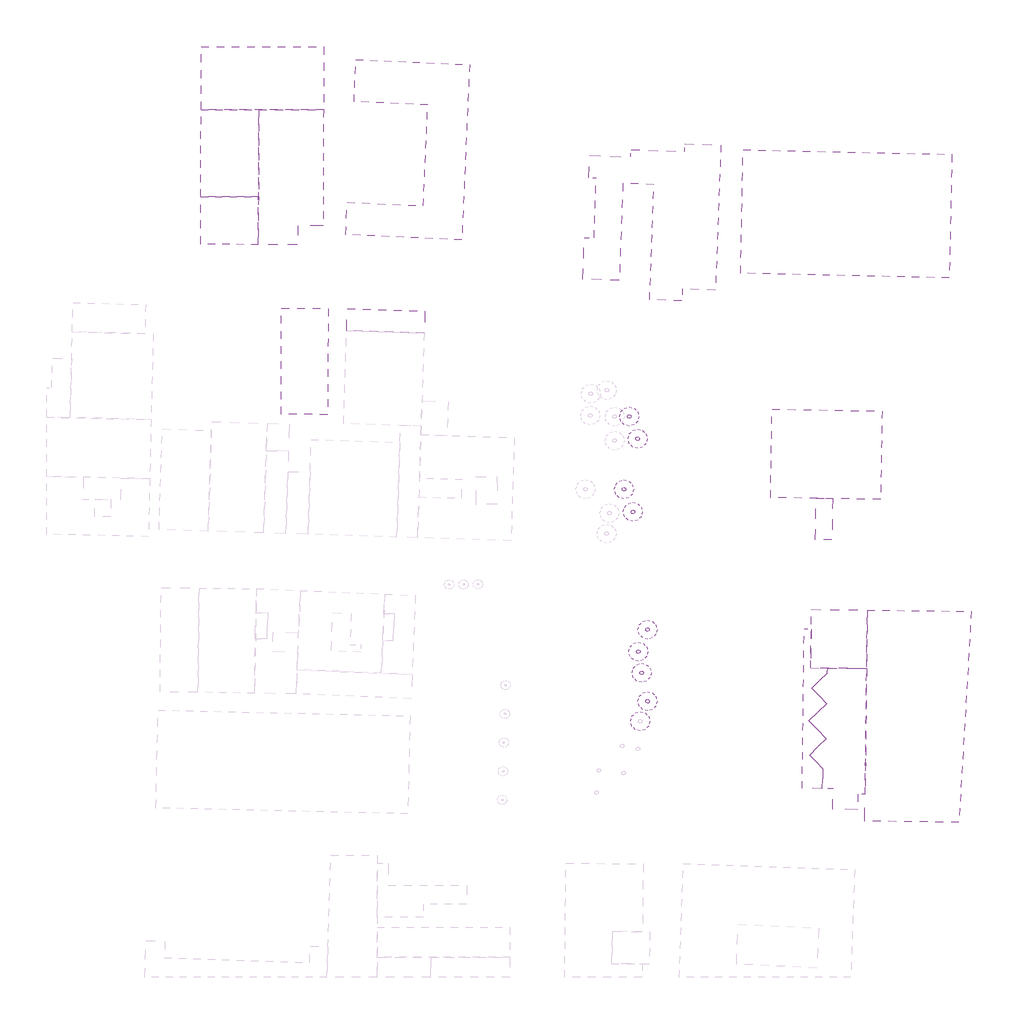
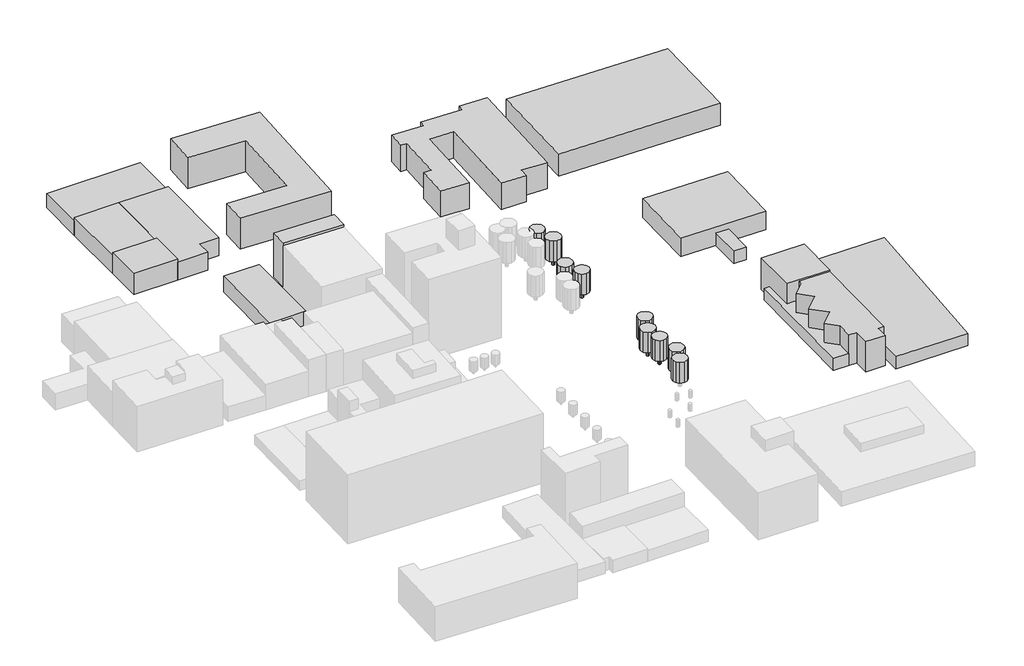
# One storey, part 4 of 4: 32 proxies.
"""IFC4 building model written with IfcOpenShell, lengths in millimetres."""

from ifc_helpers import new_model, si_unit, frame, origin, place, context, project, spatial, polyline, outline, extrude, triangles, element, save

model = new_model("IFC4")

# Units and contexts
model_context = context("Model", 3, world=origin())
ifc_project = project(units=[si_unit("LENGTHUNIT", "METRE", prefix="MILLI")], contexts=[model_context])

# Site, building, storey
site = spatial("IfcSite", under=ifc_project)
building = spatial("IfcBuilding", under=site)
storey = spatial("IfcBuildingStorey", under=building, Name="Terrain Minimum Level", Elevation=-10557.5420791)

# Proxies
placement = place(None, origin())
element("IfcBuildingElementProxy", 1, Name="Generic Models", at=placement, inside=storey, context=model_context, shape_type="Tessellation", body=[
    triangles([(133433.3251465, 108337.6662598, -988.9164545), (133433.3251465, 108947.2662598, -988.9164545), (133210.1945801, 109170.3968262, -988.9164545), (132905.3945801, 109252.0662598, -988.9164545), (132600.5945801, 109170.3968262, -988.9164545), (132600.5945801, 108114.5356934, -988.9164545), (133210.1945801, 108114.5356934, -988.9164545), (132905.3945801, 108032.8662598, -988.9164545), (133210.1945801, 108114.5356934, -4036.9166725), (132905.3945801, 108032.8662598, -4036.9166725), (132377.4640137, 108337.6662598, -4036.9166725), (132905.3945801, 109252.0662598, -4036.9166725), (133210.1945801, 109170.3968262, -4036.9166725), (133433.3251465, 108947.2662598, -4036.9166725), (133514.9945801, 108642.4662598, -4036.9166725), (133433.3251465, 108337.6662598, -4036.9166725), (133514.9945801, 108642.4662598, -988.9164545), (132600.5945801, 109170.3968262, -4036.9166725), (132377.4640137, 108947.2662598, -4036.9166725), (132377.4640137, 108947.2662598, -988.9164545), (132295.7945801, 108642.4662598, -4036.9166725), (132377.4640137, 108337.6662598, -988.9164545), (132295.7945801, 108642.4662598, -988.9164545), (132600.5945801, 108114.5356934, -4036.9166725)], [[16, 17, 1], [16, 15, 17], [9, 1, 7], [9, 16, 1], [10, 7, 8], [10, 9, 7], [24, 8, 6], [24, 10, 8], [11, 6, 22], [11, 24, 6], [21, 22, 23], [21, 11, 22], [19, 23, 20], [19, 21, 23], [18, 20, 5], [18, 19, 20], [12, 5, 4], [12, 18, 5], [13, 4, 3], [13, 12, 4], [14, 3, 2], [14, 13, 3], [15, 2, 17], [15, 14, 2], [14, 15, 16], [12, 13, 14], [19, 18, 12], [11, 21, 19], [10, 24, 11], [16, 9, 10], [12, 14, 16], [11, 19, 12], [16, 10, 11], [11, 12, 16], [1, 4, 22], [22, 8, 1], [4, 20, 22], [1, 2, 4], [8, 7, 1], [22, 6, 8], [20, 23, 22], [4, 5, 20], [2, 3, 4], [1, 17, 2]]),
])
element("IfcBuildingElementProxy", 2, Name="Generic Models", at=placement, inside=storey, context=model_context, shape_type="Tessellation", body=[
    triangles([(135545.0474121, 107118.4662598, 8155.0836182), (135545.0474121, 110166.4662598, 8155.0836182), (134429.3945801, 111282.10979, 8155.0836182), (132905.3945801, 111690.4662598, 8155.0836182), (131381.3945801, 111282.10979, 8155.0836182), (131381.3945801, 106002.8227295, 8155.0836182), (134429.3945801, 106002.8227295, 8155.0836182), (132905.3945801, 105594.4662598, 8155.0836182), (134429.3945801, 106002.8227295, -988.9164545), (132905.3945801, 105594.4662598, -988.9164545), (130265.7510498, 107118.4662598, -988.9164545), (132905.3945801, 111690.4662598, -988.9164545), (134429.3945801, 111282.10979, -988.9164545), (135545.0474121, 110166.4662598, -988.9164545), (135953.3945801, 108642.4662598, -988.9164545), (135545.0474121, 107118.4662598, -988.9164545), (135953.3945801, 108642.4662598, 8155.0836182), (131381.3945801, 111282.10979, -988.9164545), (130265.7510498, 110166.4662598, -988.9164545), (130265.7510498, 110166.4662598, 8155.0836182), (129857.3945801, 108642.4662598, -988.9164545), (130265.7510498, 107118.4662598, 8155.0836182), (129857.3945801, 108642.4662598, 8155.0836182), (131381.3945801, 106002.8227295, -988.9164545)], [[16, 17, 1], [16, 15, 17], [9, 1, 7], [9, 16, 1], [10, 7, 8], [10, 9, 7], [24, 8, 6], [24, 10, 8], [11, 6, 22], [11, 24, 6], [21, 22, 23], [21, 11, 22], [19, 23, 20], [19, 21, 23], [18, 20, 5], [18, 19, 20], [12, 5, 4], [12, 18, 5], [13, 4, 3], [13, 12, 4], [14, 3, 2], [14, 13, 3], [15, 2, 17], [15, 14, 2], [14, 15, 16], [12, 13, 14], [19, 18, 12], [11, 21, 19], [10, 24, 11], [16, 9, 10], [12, 14, 16], [11, 19, 12], [16, 10, 11], [11, 12, 16], [1, 4, 22], [22, 8, 1], [4, 20, 22], [1, 2, 4], [8, 7, 1], [22, 6, 8], [20, 23, 22], [4, 5, 20], [2, 3, 4], [1, 17, 2]]),
])
element("IfcBuildingElementProxy", 3, Name="Generic Models", at=placement, inside=storey, context=model_context, shape_type="Tessellation", body=[
    triangles([(130748.2797363, 115425.4661865, -1035.098374), (130748.2797363, 116035.0661865, -1035.098374), (130525.1491699, 116258.1967529, -1035.098374), (130220.3491699, 116339.8661865, -1035.098374), (129915.5491699, 116258.1967529, -1035.098374), (129915.5491699, 115202.3449219, -1035.098374), (130525.1491699, 115202.3449219, -1035.098374), (130220.3491699, 115120.6661865, -1035.098374), (130525.1491699, 115202.3449219, -4083.0984467), (130220.3491699, 115120.6661865, -4083.0984467), (129692.4186035, 115425.4661865, -4083.0984467), (130220.3491699, 116339.8661865, -4083.0984467), (130525.1491699, 116258.1967529, -4083.0984467), (130748.2797363, 116035.0661865, -4083.0984467), (130829.9491699, 115730.2661865, -4083.0984467), (130748.2797363, 115425.4661865, -4083.0984467), (130829.9491699, 115730.2661865, -1035.098374), (129915.5491699, 116258.1967529, -4083.0984467), (129692.4186035, 116035.0661865, -4083.0984467), (129692.4186035, 116035.0661865, -1035.098374), (129610.7491699, 115730.2661865, -4083.0984467), (129692.4186035, 115425.4661865, -1035.098374), (129610.7491699, 115730.2661865, -1035.098374), (129915.5491699, 115202.3449219, -4083.0984467)], [[16, 17, 1], [16, 15, 17], [9, 1, 7], [9, 16, 1], [10, 7, 8], [10, 9, 7], [24, 8, 6], [24, 10, 8], [11, 6, 22], [11, 24, 6], [21, 22, 23], [21, 11, 22], [19, 23, 20], [19, 21, 23], [18, 20, 5], [18, 19, 20], [12, 5, 4], [12, 18, 5], [13, 4, 3], [13, 12, 4], [14, 3, 2], [14, 13, 3], [15, 2, 17], [15, 14, 2], [14, 15, 16], [12, 13, 14], [19, 18, 12], [11, 21, 19], [10, 24, 11], [16, 9, 10], [12, 14, 16], [11, 19, 12], [16, 10, 11], [11, 12, 16], [1, 4, 22], [22, 8, 1], [4, 20, 22], [1, 2, 4], [8, 7, 1], [22, 6, 8], [20, 23, 22], [4, 5, 20], [2, 3, 4], [1, 17, 2]]),
])
element("IfcBuildingElementProxy", 4, Name="Generic Models", at=placement, inside=storey, context=model_context, shape_type="Tessellation", body=[
    triangles([(132859.9927002, 114206.2661865, 8108.9021347), (132859.9927002, 117254.2661865, 8108.9021347), (131744.3491699, 118369.9190186, 8108.9021347), (130220.3491699, 118778.2661865, 8108.9021347), (128696.3491699, 118369.9190186, 8108.9021347), (128696.3491699, 113090.6226563, 8108.9021347), (131744.3491699, 113090.6226563, 8108.9021347), (130220.3491699, 112682.2661865, 8108.9021347), (131744.3491699, 113090.6226563, -1035.098374), (130220.3491699, 112682.2661865, -1035.098374), (127580.7056396, 114206.2661865, -1035.098374), (130220.3491699, 118778.2661865, -1035.098374), (131744.3491699, 118369.9190186, -1035.098374), (132859.9927002, 117254.2661865, -1035.098374), (133268.3491699, 115730.2661865, -1035.098374), (132859.9927002, 114206.2661865, -1035.098374), (133268.3491699, 115730.2661865, 8108.9021347), (128696.3491699, 118369.9190186, -1035.098374), (127580.7056396, 117254.2661865, -1035.098374), (127580.7056396, 117254.2661865, 8108.9021347), (127172.3491699, 115730.2661865, -1035.098374), (127580.7056396, 114206.2661865, 8108.9021347), (127172.3491699, 115730.2661865, 8108.9021347), (128696.3491699, 113090.6226563, -1035.098374)], [[16, 17, 1], [16, 15, 17], [9, 1, 7], [9, 16, 1], [10, 7, 8], [10, 9, 7], [24, 8, 6], [24, 10, 8], [11, 6, 22], [11, 24, 6], [21, 22, 23], [21, 11, 22], [19, 23, 20], [19, 21, 23], [18, 20, 5], [18, 19, 20], [12, 5, 4], [12, 18, 5], [13, 4, 3], [13, 12, 4], [14, 3, 2], [14, 13, 3], [15, 2, 17], [15, 14, 2], [14, 15, 16], [12, 13, 14], [19, 18, 12], [11, 21, 19], [10, 24, 11], [16, 9, 10], [12, 14, 16], [11, 19, 12], [16, 10, 11], [11, 12, 16], [1, 4, 22], [22, 8, 1], [4, 20, 22], [1, 2, 4], [8, 7, 1], [22, 6, 8], [20, 23, 22], [4, 5, 20], [2, 3, 4], [1, 17, 2]]),
])
element("IfcBuildingElementProxy", 5, Name="Generic Models", at=placement, inside=storey, context=model_context, shape_type="Tessellation", body=[
    triangles([(131926.1241211, 85046.4367676, -934.2251707), (131926.1241211, 85656.0367676, -934.2251707), (131702.9935547, 85879.167334, -934.2251707), (131398.1935547, 85960.8367676, -934.2251707), (131093.3935547, 85879.167334, -934.2251707), (131093.3935547, 84823.3062012, -934.2251707), (131702.9935547, 84823.3062012, -934.2251707), (131398.1935547, 84741.6367676, -934.2251707), (131702.9935547, 84823.3062012, -3982.2252434), (131398.1935547, 84741.6367676, -3982.2252434), (130870.2629883, 85046.4367676, -3982.2252434), (131398.1935547, 85960.8367676, -3982.2252434), (131702.9935547, 85879.167334, -3982.2252434), (131926.1241211, 85656.0367676, -3982.2252434), (132007.7935547, 85351.2367676, -3982.2252434), (131926.1241211, 85046.4367676, -3982.2252434), (132007.7935547, 85351.2367676, -934.2251707), (131093.3935547, 85879.167334, -3982.2252434), (130870.2629883, 85656.0367676, -3982.2252434), (130870.2629883, 85656.0367676, -934.2251707), (130788.5935547, 85351.2367676, -3982.2252434), (130870.2629883, 85046.4367676, -934.2251707), (130788.5935547, 85351.2367676, -934.2251707), (131093.3935547, 84823.3062012, -3982.2252434)], [[16, 17, 1], [16, 15, 17], [9, 1, 7], [9, 16, 1], [10, 7, 8], [10, 9, 7], [24, 8, 6], [24, 10, 8], [11, 6, 22], [11, 24, 6], [21, 22, 23], [21, 11, 22], [19, 23, 20], [19, 21, 23], [18, 20, 5], [18, 19, 20], [12, 5, 4], [12, 18, 5], [13, 4, 3], [13, 12, 4], [14, 3, 2], [14, 13, 3], [15, 2, 17], [15, 14, 2], [14, 15, 16], [12, 13, 14], [19, 18, 12], [11, 21, 19], [10, 24, 11], [16, 9, 10], [12, 14, 16], [11, 19, 12], [16, 10, 11], [11, 12, 16], [1, 4, 22], [22, 8, 1], [4, 20, 22], [1, 2, 4], [8, 7, 1], [22, 6, 8], [20, 23, 22], [4, 5, 20], [2, 3, 4], [1, 17, 2]]),
])
element("IfcBuildingElementProxy", 6, Name="Generic Models", at=placement, inside=storey, context=model_context, shape_type="Tessellation", body=[
    triangles([(134037.837085, 83827.2367676, 8209.7750473), (134037.837085, 86875.2367676, 8209.7750473), (132922.1935547, 87990.8802979, 8209.7750473), (131398.1935547, 88399.2367676, 8209.7750473), (129874.1935547, 87990.8802979, 8209.7750473), (129874.1935547, 82711.5932373, 8209.7750473), (132922.1935547, 82711.5932373, 8209.7750473), (131398.1935547, 82303.2367676, 8209.7750473), (132922.1935547, 82711.5932373, -934.2251707), (131398.1935547, 82303.2367676, -934.2251707), (128758.5500244, 83827.2367676, -934.2251707), (131398.1935547, 88399.2367676, -934.2251707), (132922.1935547, 87990.8802979, -934.2251707), (134037.837085, 86875.2367676, -934.2251707), (134446.1935547, 85351.2367676, -934.2251707), (134037.837085, 83827.2367676, -934.2251707), (134446.1935547, 85351.2367676, 8209.7750473), (129874.1935547, 87990.8802979, -934.2251707), (128758.5500244, 86875.2367676, -934.2251707), (128758.5500244, 86875.2367676, 8209.7750473), (128350.1935547, 85351.2367676, -934.2251707), (128758.5500244, 83827.2367676, 8209.7750473), (128350.1935547, 85351.2367676, 8209.7750473), (129874.1935547, 82711.5932373, -934.2251707)], [[16, 17, 1], [16, 15, 17], [9, 1, 7], [9, 16, 1], [10, 7, 8], [10, 9, 7], [24, 8, 6], [24, 10, 8], [11, 6, 22], [11, 24, 6], [21, 22, 23], [21, 11, 22], [19, 23, 20], [19, 21, 23], [18, 20, 5], [18, 19, 20], [12, 5, 4], [12, 18, 5], [13, 4, 3], [13, 12, 4], [14, 3, 2], [14, 13, 3], [15, 2, 17], [15, 14, 2], [14, 15, 16], [12, 13, 14], [19, 18, 12], [11, 21, 19], [10, 24, 11], [16, 9, 10], [12, 14, 16], [11, 19, 12], [16, 10, 11], [11, 12, 16], [1, 4, 22], [22, 8, 1], [4, 20, 22], [1, 2, 4], [8, 7, 1], [22, 6, 8], [20, 23, 22], [4, 5, 20], [2, 3, 4], [1, 17, 2]]),
])
element("IfcBuildingElementProxy", 7, Name="Generic Models", at=placement, inside=storey, context=model_context, shape_type="Tessellation", body=[
    triangles([(129077.3026611, 92240.1186035, -1186.7482744), (129077.3026611, 92849.7186035, -1186.7482744), (128854.1813965, 93072.8491699, -1186.7482744), (128549.3813965, 93154.5186035, -1186.7482744), (128244.5813965, 93072.8491699, -1186.7482744), (128244.5813965, 92016.9880371, -1186.7482744), (128854.1813965, 92016.9880371, -1186.7482744), (128549.3813965, 91935.3186035, -1186.7482744), (128854.1813965, 92016.9880371, -4234.7484924), (128549.3813965, 91935.3186035, -4234.7484924), (128021.4508301, 92240.1186035, -4234.7484924), (128549.3813965, 93154.5186035, -4234.7484924), (128854.1813965, 93072.8491699, -4234.7484924), (129077.3026611, 92849.7186035, -4234.7484924), (129158.9813965, 92544.9186035, -4234.7484924), (129077.3026611, 92240.1186035, -4234.7484924), (129158.9813965, 92544.9186035, -1186.7482744), (128244.5813965, 93072.8491699, -4234.7484924), (128021.4508301, 92849.7186035, -4234.7484924), (128021.4508301, 92849.7186035, -1186.7482744), (127939.7813965, 92544.9186035, -4234.7484924), (128021.4508301, 92240.1186035, -1186.7482744), (127939.7813965, 92544.9186035, -1186.7482744), (128244.5813965, 92016.9880371, -4234.7484924)], [[16, 17, 1], [16, 15, 17], [9, 1, 7], [9, 16, 1], [10, 7, 8], [10, 9, 7], [24, 8, 6], [24, 10, 8], [11, 6, 22], [11, 24, 6], [21, 22, 23], [21, 11, 22], [19, 23, 20], [19, 21, 23], [18, 20, 5], [18, 19, 20], [12, 5, 4], [12, 18, 5], [13, 4, 3], [13, 12, 4], [14, 3, 2], [14, 13, 3], [15, 2, 17], [15, 14, 2], [14, 15, 16], [12, 13, 14], [19, 18, 12], [11, 21, 19], [10, 24, 11], [16, 9, 10], [12, 14, 16], [11, 19, 12], [16, 10, 11], [11, 12, 16], [1, 4, 22], [22, 8, 1], [4, 20, 22], [1, 2, 4], [8, 7, 1], [22, 6, 8], [20, 23, 22], [4, 5, 20], [2, 3, 4], [1, 17, 2]]),
])
element("IfcBuildingElementProxy", 8, Name="Generic Models", at=placement, inside=storey, context=model_context, shape_type="Tessellation", body=[
    triangles([(131189.0249268, 91020.9186035, 7957.2520889), (131189.0249268, 94068.9186035, 7957.2520889), (130073.3813965, 95184.5621338, 7957.2520889), (128549.3813965, 95592.9186035, 7957.2520889), (127025.3720947, 95184.5621338, 7957.2520889), (127025.3720947, 89905.2750732, 7957.2520889), (130073.3813965, 89905.2750732, 7957.2520889), (128549.3813965, 89496.9186035, 7957.2520889), (130073.3813965, 89905.2750732, -1186.7482744), (128549.3813965, 89496.9186035, -1186.7482744), (125909.7285645, 91020.9186035, -1186.7482744), (128549.3813965, 95592.9186035, -1186.7482744), (130073.3813965, 95184.5621338, -1186.7482744), (131189.0249268, 94068.9186035, -1186.7482744), (131597.3813965, 92544.9186035, -1186.7482744), (131189.0249268, 91020.9186035, -1186.7482744), (131597.3813965, 92544.9186035, 7957.2520889), (127025.3720947, 95184.5621338, -1186.7482744), (125909.7285645, 94068.9186035, -1186.7482744), (125909.7285645, 94068.9186035, 7957.2520889), (125501.3720947, 92544.9186035, -1186.7482744), (125909.7285645, 91020.9186035, 7957.2520889), (125501.3720947, 92544.9186035, 7957.2520889), (127025.3720947, 89905.2750732, -1186.7482744)], [[16, 17, 1], [16, 15, 17], [9, 1, 7], [9, 16, 1], [10, 7, 8], [10, 9, 7], [24, 8, 6], [24, 10, 8], [11, 6, 22], [11, 24, 6], [21, 22, 23], [21, 11, 22], [19, 23, 20], [19, 21, 23], [18, 20, 5], [18, 19, 20], [12, 5, 4], [12, 18, 5], [13, 4, 3], [13, 12, 4], [14, 3, 2], [14, 13, 3], [15, 2, 17], [15, 14, 2], [14, 15, 16], [12, 13, 14], [19, 18, 12], [11, 21, 19], [10, 24, 11], [16, 9, 10], [12, 14, 16], [11, 19, 12], [16, 10, 11], [11, 12, 16], [1, 4, 22], [22, 8, 1], [4, 20, 22], [1, 2, 4], [8, 7, 1], [22, 6, 8], [20, 23, 22], [4, 5, 20], [2, 3, 4], [1, 17, 2]]),
])
element("IfcBuildingElementProxy", 9, Name="Generic Models", at=placement, inside=storey, context=model_context, shape_type="Tessellation", body=[
    triangles([(136363.5369873, 17141.7478729, 8932.0373566), (136363.5369873, 20189.7467102, 8932.0373566), (135247.893457, 21305.3925659, 8932.0373566), (133723.8841553, 21713.7467102, 8932.0373566), (132199.8841553, 21305.3925659, 8932.0373566), (132199.8841553, 16026.1020172, 8932.0373566), (135247.893457, 16026.1020172, 8932.0373566), (133723.8841553, 15617.7478729, 8932.0373566), (135247.893457, 16026.1020172, -211.9631885), (133723.8841553, 15617.7478729, -211.9631885), (131084.240625, 17141.7478729, -211.9631885), (133723.8841553, 21713.7467102, -211.9631885), (135247.893457, 21305.3925659, -211.9631885), (136363.5369873, 20189.7467102, -211.9631885), (136771.893457, 18665.7478729, -211.9631885), (136363.5369873, 17141.7478729, -211.9631885), (136771.893457, 18665.7478729, 8932.0373566), (132199.8841553, 21305.3925659, -211.9631885), (131084.240625, 20189.7467102, -211.9631885), (131084.240625, 20189.7467102, 8932.0373566), (130675.8841553, 18665.7478729, -211.9631885), (131084.240625, 17141.7478729, 8932.0373566), (130675.8841553, 18665.7478729, 8932.0373566), (132199.8841553, 16026.1020172, -211.9631885)], [[16, 17, 1], [16, 15, 17], [9, 1, 7], [9, 16, 1], [10, 7, 8], [10, 9, 7], [24, 8, 6], [24, 10, 8], [11, 6, 22], [11, 24, 6], [21, 22, 23], [21, 11, 22], [19, 23, 20], [19, 21, 23], [18, 20, 5], [18, 19, 20], [12, 5, 4], [12, 18, 5], [13, 4, 3], [13, 12, 4], [14, 3, 2], [14, 13, 3], [15, 2, 17], [15, 14, 2], [14, 15, 16], [12, 13, 14], [19, 18, 12], [11, 21, 19], [10, 24, 11], [16, 9, 10], [12, 14, 16], [11, 19, 12], [16, 10, 11], [11, 12, 16], [1, 4, 22], [22, 8, 1], [4, 20, 22], [1, 2, 4], [8, 7, 1], [22, 6, 8], [20, 23, 22], [4, 5, 20], [2, 3, 4], [1, 17, 2]]),
])
element("IfcBuildingElementProxy", 10, Name="Generic Models", at=placement, inside=storey, context=model_context, shape_type="Tessellation", body=[
    triangles([(136581.6725098, 24739.6480591, -236.0296519), (136581.6725098, 25349.2480591, -236.0296519), (136358.5419434, 25572.3786255, -236.0296519), (136053.7419434, 25654.0480591, -236.0296519), (135748.9419434, 25572.3786255, -236.0296519), (135748.9419434, 24516.5198181, -236.0296519), (136358.5419434, 24516.5198181, -236.0296519), (136053.7419434, 24434.8480591, -236.0296519), (136358.5419434, 24516.5198181, -3284.0297791), (136053.7419434, 24434.8480591, -3284.0297791), (135525.811377, 24739.6480591, -3284.0297791), (136053.7419434, 25654.0480591, -3284.0297791), (136358.5419434, 25572.3786255, -3284.0297791), (136581.6725098, 25349.2480591, -3284.0297791), (136663.3419434, 25044.4480591, -3284.0297791), (136581.6725098, 24739.6480591, -3284.0297791), (136663.3419434, 25044.4480591, -236.0296519), (135748.9419434, 25572.3786255, -3284.0297791), (135525.811377, 25349.2480591, -3284.0297791), (135525.811377, 25349.2480591, -236.0296519), (135444.1419434, 25044.4480591, -3284.0297791), (135525.811377, 24739.6480591, -236.0296519), (135444.1419434, 25044.4480591, -236.0296519), (135748.9419434, 24516.5198181, -3284.0297791)], [[16, 17, 1], [16, 15, 17], [9, 1, 7], [9, 16, 1], [10, 7, 8], [10, 9, 7], [24, 8, 6], [24, 10, 8], [11, 6, 22], [11, 24, 6], [21, 22, 23], [21, 11, 22], [19, 23, 20], [19, 21, 23], [18, 20, 5], [18, 19, 20], [12, 5, 4], [12, 18, 5], [13, 4, 3], [13, 12, 4], [14, 3, 2], [14, 13, 3], [15, 2, 17], [15, 14, 2], [14, 15, 16], [12, 13, 14], [19, 18, 12], [11, 21, 19], [10, 24, 11], [16, 9, 10], [12, 14, 16], [11, 19, 12], [16, 10, 11], [11, 12, 16], [1, 4, 22], [22, 8, 1], [4, 20, 22], [1, 2, 4], [8, 7, 1], [22, 6, 8], [20, 23, 22], [4, 5, 20], [2, 3, 4], [1, 17, 2]]),
])
element("IfcBuildingElementProxy", 11, Name="Generic Models", at=placement, inside=storey, context=model_context, shape_type="Tessellation", body=[
    triangles([(138693.3947754, 23520.4480591, 8907.9708023), (138693.3947754, 26568.4480591, 8907.9708023), (137577.7419434, 27684.0939148, 8907.9708023), (136053.7419434, 28092.4480591, 8907.9708023), (134529.7419434, 27684.0939148, 8907.9708023), (134529.7419434, 22404.8045288, 8907.9708023), (137577.7419434, 22404.8045288, 8907.9708023), (136053.7419434, 21996.4480591, 8907.9708023), (137577.7419434, 22404.8045288, -236.0296519), (136053.7419434, 21996.4480591, -236.0296519), (133414.0984131, 23520.4480591, -236.0296519), (136053.7419434, 28092.4480591, -236.0296519), (137577.7419434, 27684.0939148, -236.0296519), (138693.3947754, 26568.4480591, -236.0296519), (139101.7419434, 25044.4480591, -236.0296519), (138693.3947754, 23520.4480591, -236.0296519), (139101.7419434, 25044.4480591, 8907.9708023), (134529.7419434, 27684.0939148, -236.0296519), (133414.0984131, 26568.4480591, -236.0296519), (133414.0984131, 26568.4480591, 8907.9708023), (133005.7419434, 25044.4480591, -236.0296519), (133414.0984131, 23520.4480591, 8907.9708023), (133005.7419434, 25044.4480591, 8907.9708023), (134529.7419434, 22404.8045288, -236.0296519)], [[16, 17, 1], [16, 15, 17], [9, 1, 7], [9, 16, 1], [10, 7, 8], [10, 9, 7], [24, 8, 6], [24, 10, 8], [11, 6, 22], [11, 24, 6], [21, 22, 23], [21, 11, 22], [19, 23, 20], [19, 21, 23], [18, 20, 5], [18, 19, 20], [12, 5, 4], [12, 18, 5], [13, 4, 3], [13, 12, 4], [14, 3, 2], [14, 13, 3], [15, 2, 17], [15, 14, 2], [14, 15, 16], [12, 13, 14], [19, 18, 12], [11, 21, 19], [10, 24, 11], [16, 9, 10], [12, 14, 16], [11, 19, 12], [16, 10, 11], [11, 12, 16], [1, 4, 22], [22, 8, 1], [4, 20, 22], [1, 2, 4], [8, 7, 1], [22, 6, 8], [20, 23, 22], [4, 5, 20], [2, 3, 4], [1, 17, 2]]),
])
element("IfcBuildingElementProxy", 12, Name="Generic Models", at=placement, inside=storey, context=model_context, shape_type="Tessellation", body=[
    triangles([(134685.9928711, 33785.7424072, -105.8619976), (134685.9928711, 34395.3424072, -105.8619976), (134462.8623047, 34618.4706482, -105.8619976), (134158.0623047, 34700.1424072, -105.8619976), (133853.2623047, 34618.4706482, -105.8619976), (133853.2623047, 33562.6118408, -105.8619976), (134462.8623047, 33562.6118408, -105.8619976), (134158.0623047, 33480.9424072, -105.8619976), (134462.8623047, 33562.6118408, -3153.8621429), (134158.0623047, 33480.9424072, -3153.8621429), (133630.1317383, 33785.7424072, -3153.8621429), (134158.0623047, 34700.1424072, -3153.8621429), (134462.8623047, 34618.4706482, -3153.8621429), (134685.9928711, 34395.3424072, -3153.8621429), (134767.6623047, 34090.5424072, -3153.8621429), (134685.9928711, 33785.7424072, -3153.8621429), (134767.6623047, 34090.5424072, -105.8619976), (133853.2623047, 34618.4706482, -3153.8621429), (133630.1317383, 34395.3424072, -3153.8621429), (133630.1317383, 34395.3424072, -105.8619976), (133548.4623047, 34090.5424072, -3153.8621429), (133630.1317383, 33785.7424072, -105.8619976), (133548.4623047, 34090.5424072, -105.8619976), (133853.2623047, 33562.6118408, -3153.8621429)], [[16, 17, 1], [16, 15, 17], [9, 1, 7], [9, 16, 1], [10, 7, 8], [10, 9, 7], [24, 8, 6], [24, 10, 8], [11, 6, 22], [11, 24, 6], [21, 22, 23], [21, 11, 22], [19, 23, 20], [19, 21, 23], [18, 20, 5], [18, 19, 20], [12, 5, 4], [12, 18, 5], [13, 4, 3], [13, 12, 4], [14, 3, 2], [14, 13, 3], [15, 2, 17], [15, 14, 2], [14, 15, 16], [12, 13, 14], [19, 18, 12], [11, 21, 19], [10, 24, 11], [16, 9, 10], [12, 14, 16], [11, 19, 12], [16, 10, 11], [11, 12, 16], [1, 4, 22], [22, 8, 1], [4, 20, 22], [1, 2, 4], [8, 7, 1], [22, 6, 8], [20, 23, 22], [4, 5, 20], [2, 3, 4], [1, 17, 2]]),
])
element("IfcBuildingElementProxy", 13, Name="Generic Models", at=placement, inside=storey, context=model_context, shape_type="Tessellation", body=[
    triangles([(136797.705835, 32566.5424072, 9038.1384384), (136797.705835, 35614.5424072, 9038.1384384), (135682.0623047, 36730.1882629, 9038.1384384), (134158.0623047, 37138.5424072, 9038.1384384), (132634.0623047, 36730.1882629, 9038.1384384), (132634.0623047, 31450.8965515, 9038.1384384), (135682.0623047, 31450.8965515, 9038.1384384), (134158.0623047, 31042.5424072, 9038.1384384), (135682.0623047, 31450.8965515, -105.8619976), (134158.0623047, 31042.5424072, -105.8619976), (131518.4187744, 32566.5424072, -105.8619976), (134158.0623047, 37138.5424072, -105.8619976), (135682.0623047, 36730.1882629, -105.8619976), (136797.705835, 35614.5424072, -105.8619976), (137206.0623047, 34090.5424072, -105.8619976), (136797.705835, 32566.5424072, -105.8619976), (137206.0623047, 34090.5424072, 9038.1384384), (132634.0623047, 36730.1882629, -105.8619976), (131518.4187744, 35614.5424072, -105.8619976), (131518.4187744, 35614.5424072, 9038.1384384), (131110.0623047, 34090.5424072, -105.8619976), (131518.4187744, 32566.5424072, 9038.1384384), (131110.0623047, 34090.5424072, 9038.1384384), (132634.0623047, 31450.8965515, -105.8619976)], [[16, 17, 1], [16, 15, 17], [9, 1, 7], [9, 16, 1], [10, 7, 8], [10, 9, 7], [24, 8, 6], [24, 10, 8], [11, 6, 22], [11, 24, 6], [21, 22, 23], [21, 11, 22], [19, 23, 20], [19, 21, 23], [18, 20, 5], [18, 19, 20], [12, 5, 4], [12, 18, 5], [13, 4, 3], [13, 12, 4], [14, 3, 2], [14, 13, 3], [15, 2, 17], [15, 14, 2], [14, 15, 16], [12, 13, 14], [19, 18, 12], [11, 21, 19], [10, 24, 11], [16, 9, 10], [12, 14, 16], [11, 19, 12], [16, 10, 11], [11, 12, 16], [1, 4, 22], [22, 8, 1], [4, 20, 22], [1, 2, 4], [8, 7, 1], [22, 6, 8], [20, 23, 22], [4, 5, 20], [2, 3, 4], [1, 17, 2]]),
])
element("IfcBuildingElementProxy", 14, Name="Generic Models", at=placement, inside=storey, context=model_context, shape_type="Tessellation", body=[
    triangles([(133658.1951416, 40529.29823, -138.6095082), (133658.1951416, 41138.89823, -138.6095082), (133435.0645752, 41362.0287964, -138.6095082), (133130.2645752, 41443.69823, -138.6095082), (132825.4645752, 41362.0287964, -138.6095082), (132825.4645752, 40306.1676636, -138.6095082), (133435.0645752, 40306.1676636, -138.6095082), (133130.2645752, 40224.49823, -138.6095082), (133435.0645752, 40306.1676636, -3186.6095627), (133130.2645752, 40224.49823, -3186.6095627), (132602.3340088, 40529.29823, -3186.6095627), (133130.2645752, 41443.69823, -3186.6095627), (133435.0645752, 41362.0287964, -3186.6095627), (133658.1951416, 41138.89823, -3186.6095627), (133739.8645752, 40834.09823, -3186.6095627), (133658.1951416, 40529.29823, -3186.6095627), (133739.8645752, 40834.09823, -138.6095082), (132825.4645752, 41362.0287964, -3186.6095627), (132602.3340088, 41138.89823, -3186.6095627), (132602.3340088, 41138.89823, -138.6095082), (132520.6645752, 40834.09823, -3186.6095627), (132602.3340088, 40529.29823, -138.6095082), (132520.6645752, 40834.09823, -138.6095082), (132825.4645752, 40306.1676636, -3186.6095627)], [[16, 17, 1], [16, 15, 17], [9, 1, 7], [9, 16, 1], [10, 7, 8], [10, 9, 7], [24, 8, 6], [24, 10, 8], [11, 6, 22], [11, 24, 6], [21, 22, 23], [21, 11, 22], [19, 23, 20], [19, 21, 23], [18, 20, 5], [18, 19, 20], [12, 5, 4], [12, 18, 5], [13, 4, 3], [13, 12, 4], [14, 3, 2], [14, 13, 3], [15, 2, 17], [15, 14, 2], [14, 15, 16], [12, 13, 14], [19, 18, 12], [11, 21, 19], [10, 24, 11], [16, 9, 10], [12, 14, 16], [11, 19, 12], [16, 10, 11], [11, 12, 16], [1, 4, 22], [22, 8, 1], [4, 20, 22], [1, 2, 4], [8, 7, 1], [22, 6, 8], [20, 23, 22], [4, 5, 20], [2, 3, 4], [1, 17, 2]]),
])
element("IfcBuildingElementProxy", 15, Name="Generic Models", at=placement, inside=storey, context=model_context, shape_type="Tessellation", body=[
    triangles([(135769.9081055, 39310.09823, 9005.3910187), (135769.9081055, 42358.09823, 9005.3910187), (134654.2645752, 43473.7417603, 9005.3910187), (133130.2645752, 43882.09823, 9005.3910187), (131606.2645752, 43473.7417603, 9005.3910187), (131606.2645752, 38194.4523743, 9005.3910187), (134654.2645752, 38194.4523743, 9005.3910187), (133130.2645752, 37786.09823, 9005.3910187), (134654.2645752, 38194.4523743, -138.6095082), (133130.2645752, 37786.09823, -138.6095082), (130490.6210449, 39310.09823, -138.6095082), (133130.2645752, 43882.09823, -138.6095082), (134654.2645752, 43473.7417603, -138.6095082), (135769.9081055, 42358.09823, -138.6095082), (136178.2645752, 40834.09823, -138.6095082), (135769.9081055, 39310.09823, -138.6095082), (136178.2645752, 40834.09823, 9005.3910187), (131606.2645752, 43473.7417603, -138.6095082), (130490.6210449, 42358.09823, -138.6095082), (130490.6210449, 42358.09823, 9005.3910187), (130082.2645752, 40834.09823, -138.6095082), (130490.6210449, 39310.09823, 9005.3910187), (130082.2645752, 40834.09823, 9005.3910187), (131606.2645752, 38194.4523743, -138.6095082)], [[16, 17, 1], [16, 15, 17], [9, 1, 7], [9, 16, 1], [10, 7, 8], [10, 9, 7], [24, 8, 6], [24, 10, 8], [11, 6, 22], [11, 24, 6], [21, 22, 23], [21, 11, 22], [19, 23, 20], [19, 21, 23], [18, 20, 5], [18, 19, 20], [12, 5, 4], [12, 18, 5], [13, 4, 3], [13, 12, 4], [14, 3, 2], [14, 13, 3], [15, 2, 17], [15, 14, 2], [14, 15, 16], [12, 13, 14], [19, 18, 12], [11, 21, 19], [10, 24, 11], [16, 9, 10], [12, 14, 16], [11, 19, 12], [16, 10, 11], [11, 12, 16], [1, 4, 22], [22, 8, 1], [4, 20, 22], [1, 2, 4], [8, 7, 1], [22, 6, 8], [20, 23, 22], [4, 5, 20], [2, 3, 4], [1, 17, 2]]),
])
element("IfcBuildingElementProxy", 16, Name="Generic Models", at=placement, inside=storey, context=model_context, shape_type="Tessellation", body=[
    triangles([(136582.546875, 47550.6743042, -388.2625654), (136582.546875, 48160.2743042, -388.2625654), (136359.4163086, 48383.4002197, -388.2625654), (136054.6163086, 48465.0743042, -388.2625654), (135749.8163086, 48383.4002197, -388.2625654), (135749.8163086, 47327.5437378, -388.2625654), (136359.4163086, 47327.5437378, -388.2625654), (136054.6163086, 47245.8743042, -388.2625654), (136359.4163086, 47327.5437378, -3436.2626381), (136054.6163086, 47245.8743042, -3436.2626381), (135526.6857422, 47550.6743042, -3436.2626381), (136054.6163086, 48465.0743042, -3436.2626381), (136359.4163086, 48383.4002197, -3436.2626381), (136582.546875, 48160.2743042, -3436.2626381), (136664.2163086, 47855.4743042, -3436.2626381), (136582.546875, 47550.6743042, -3436.2626381), (136664.2163086, 47855.4743042, -388.2625654), (135749.8163086, 48383.4002197, -3436.2626381), (135526.6857422, 48160.2743042, -3436.2626381), (135526.6857422, 48160.2743042, -388.2625654), (135445.0163086, 47855.4743042, -3436.2626381), (135526.6857422, 47550.6743042, -388.2625654), (135445.0163086, 47855.4743042, -388.2625654), (135749.8163086, 47327.5437378, -3436.2626381)], [[16, 17, 1], [16, 15, 17], [9, 1, 7], [9, 16, 1], [10, 7, 8], [10, 9, 7], [24, 8, 6], [24, 10, 8], [11, 6, 22], [11, 24, 6], [21, 22, 23], [21, 11, 22], [19, 23, 20], [19, 21, 23], [18, 20, 5], [18, 19, 20], [12, 5, 4], [12, 18, 5], [13, 4, 3], [13, 12, 4], [14, 3, 2], [14, 13, 3], [15, 2, 17], [15, 14, 2], [14, 15, 16], [12, 13, 14], [19, 18, 12], [11, 21, 19], [10, 24, 11], [16, 9, 10], [12, 14, 16], [11, 19, 12], [16, 10, 11], [11, 12, 16], [1, 4, 22], [22, 8, 1], [4, 20, 22], [1, 2, 4], [8, 7, 1], [22, 6, 8], [20, 23, 22], [4, 5, 20], [2, 3, 4], [1, 17, 2]]),
])
element("IfcBuildingElementProxy", 17, Name="Generic Models", at=placement, inside=storey, context=model_context, shape_type="Tessellation", body=[
    triangles([(138694.2598389, 46331.4743042, 8755.7376526), (138694.2598389, 49379.4743042, 8755.7376526), (137578.6163086, 50495.1178345, 8755.7376526), (136054.6163086, 50903.4743042, 8755.7376526), (134530.6163086, 50495.1178345, 8755.7376526), (134530.6163086, 45215.826123, 8755.7376526), (137578.6163086, 45215.826123, 8755.7376526), (136054.6163086, 44807.4743042, 8755.7376526), (137578.6163086, 45215.826123, -388.2625654), (136054.6163086, 44807.4743042, -388.2625654), (133414.9727783, 46331.4743042, -388.2625654), (136054.6163086, 50903.4743042, -388.2625654), (137578.6163086, 50495.1178345, -388.2625654), (138694.2598389, 49379.4743042, -388.2625654), (139102.6163086, 47855.4743042, -388.2625654), (138694.2598389, 46331.4743042, -388.2625654), (139102.6163086, 47855.4743042, 8755.7376526), (134530.6163086, 50495.1178345, -388.2625654), (133414.9727783, 49379.4743042, -388.2625654), (133414.9727783, 49379.4743042, 8755.7376526), (133006.6163086, 47855.4743042, -388.2625654), (133414.9727783, 46331.4743042, 8755.7376526), (133006.6163086, 47855.4743042, 8755.7376526), (134530.6163086, 45215.826123, -388.2625654)], [[16, 17, 1], [16, 15, 17], [9, 1, 7], [9, 16, 1], [10, 7, 8], [10, 9, 7], [24, 8, 6], [24, 10, 8], [11, 6, 22], [11, 24, 6], [21, 22, 23], [21, 11, 22], [19, 23, 20], [19, 21, 23], [18, 20, 5], [18, 19, 20], [12, 5, 4], [12, 18, 5], [13, 4, 3], [13, 12, 4], [14, 3, 2], [14, 13, 3], [15, 2, 17], [15, 14, 2], [14, 15, 16], [12, 13, 14], [19, 18, 12], [11, 21, 19], [10, 24, 11], [16, 9, 10], [12, 14, 16], [11, 19, 12], [16, 10, 11], [11, 12, 16], [1, 4, 22], [22, 8, 1], [4, 20, 22], [1, 2, 4], [8, 7, 1], [22, 6, 8], [20, 23, 22], [4, 5, 20], [2, 3, 4], [1, 17, 2]]),
])
element("IfcBuildingElementProxy", 18, Name="Generic Models", at=placement, inside=storey, context=model_context, shape_type="SweptSolid", body=[
    extrude(outline(polyline([(205358.5625359, -4589.9383864), (203063.2027066, -4562.8897508), (203005.3357169, -9473.509483), (195050.4783449, -9379.769044), (195127.8492117, -2814.0412027), (191758.6048573, -2774.3378579), (191833.7448501, 3602.0769743), (187637.6404748, 7905.762714), (192984.130805, 13118.6041769), (187447.6683549, 18797.0126156), (193116.1736248, 24323.8194512), (188361.0380206, 29200.8690811), (193229.5820548, 33947.7117084), (193248.8744184, 35584.8706796), (205830.2374084, 35436.6112659), (205358.5625359, -4589.9383864)])), frame((0.0, 0.0, -1768.1348902), z_axis=(0.0, 0.0, 1.0), x_axis=(1.0, 0.0, 0.0)), (0.0, 0.0, 1.0), 13411.2),
])
element("IfcBuildingElementProxy", 19, Name="Generic Models", at=placement, inside=storey, context=model_context, shape_type="SweptSolid", body=[
    extrude(outline(polyline([(205830.2370613, 35436.6105452), (188031.2285836, 35646.3559543), (188250.9404151, 54291.1156555), (206049.9488928, 54081.3702463), (205830.2370613, 35436.6105452)])), frame((0.0, 0.0, -1768.1347712), z_axis=(0.0, 0.0, 1.0), x_axis=(1.0, 0.0, 0.0)), (0.0, 0.0, 1.0), 14020.8),
])
element("IfcBuildingElementProxy", 20, Name="Generic Models", at=placement, inside=storey, context=model_context, shape_type="SweptSolid", body=[
    extrude(outline(polyline([(188177.3853558, 48049.2182487), (188031.2284248, 35646.3557379), (193248.8744767, 35584.8704421), (193229.5819825, 33947.7113142), (188361.0378807, 29200.8698835), (193116.1736554, 24323.8194838), (187447.668702, 18797.0126524), (192984.1307705, 13118.6041787), (187637.6406258, 7905.7625189), (191833.7446755, 3602.0768538), (191758.6046761, -2774.3374452), (185324.1473106, -2698.51297), (185922.4782478, 48075.7903648), (188177.3853558, 48049.2182487)])), frame((0.0, 0.0, -1768.1345896), z_axis=(0.0, 0.0, 1.0), x_axis=(1.0, 0.0, 0.0)), (0.0, 0.0, 1.0), 5181.6),
])
element("IfcBuildingElementProxy", 21, Name="Generic Models", at=placement, inside=storey, context=model_context, shape_type="SweptSolid", body=[
    extrude(outline(polyline([(206049.9490517, 54081.3704627), (239177.639077, 53690.989492), (235219.2231513, -13513.4650966), (205257.5634407, -13160.3930354), (205358.5621422, -4589.9378404), (206049.9490517, 54081.3704627)])), frame((0.0, 0.0, -1768.1345896), z_axis=(0.0, 0.0, 1.0), x_axis=(1.0, 0.0, 0.0)), (0.0, 0.0, 1.0), 5486.4),
])
element("IfcBuildingElementProxy", 22, Name="Generic Models", at=placement, inside=storey, context=model_context, shape_type="SweptSolid", body=[
    extrude(outline(polyline([(175717.5018871, 118068.6212477), (210756.0620577, 117462.9579031), (210269.3904603, 89308.2541369), (175230.8302897, 89913.9174815), (175717.5018871, 118068.6212477)])), frame((0.0, 0.0, -4204.0678056), z_axis=(0.0, 0.0, 1.0), x_axis=(1.0, 0.0, 0.0)), (0.0, 0.0, 1.0), 8229.6),
])
element("IfcBuildingElementProxy", 23, Name="Generic Models", at=placement, inside=storey, context=model_context, shape_type="SweptSolid", body=[
    extrude(outline(polyline([(189761.3603028, 89662.7485287), (195014.9555822, 89571.9368644), (194787.7339573, 76426.8143106), (189534.138678, 76517.6259748), (189761.3603028, 89662.7485287)])), frame((0.0, 0.0, -4204.067782), z_axis=(0.0, 0.0, 1.0), x_axis=(1.0, 0.0, 0.0)), (0.0, 0.0, 1.0), 5511.5126569),
])
element("IfcBuildingElementProxy", 24, Name="Generic Models", at=placement, inside=storey, context=model_context, shape_type="SweptSolid", body=[
    extrude(outline(polyline([(159391.7125994, 202159.2650148), (157682.8690511, 155956.9015038), (147167.1714889, 156345.8357611), (147026.9754343, 152555.3254565), (136745.6709551, 152935.5904363), (138102.0083521, 189607.17077), (128193.0547254, 189973.6639576), (127050.3184898, 159077.2632858), (115440.92084, 159506.6492038), (115929.5540282, 172717.9277939), (119017.719638, 172603.7087047), (119721.167068, 191622.9652689), (117400.4679752, 191708.7987928), (117666.0177155, 198888.5231403), (130712.2050157, 198405.9960291), (130798.4017289, 200736.514748), (147845.5489422, 200106.0078795), (147937.160312, 202582.9238125), (159391.7125994, 202159.2650148)])), frame((0.0, 0.0, -8153.0515342), z_axis=(0.0, 0.0, 1.0), x_axis=(1.0, 0.0, 0.0)), (0.0, 0.0, 1.0), 11582.4),
])
element("IfcBuildingElementProxy", 25, Name="Generic Models", at=placement, inside=storey, context=model_context, shape_type="SweptSolid", body=[
    extrude(outline(polyline([(232153.5788267, 159900.4686621), (165663.6562762, 161329.991469), (166509.3774953, 200666.1518186), (232999.3000457, 199236.6290118), (232153.5788267, 159900.4686621)])), frame((0.0, 0.0, -8697.3275575), z_axis=(0.0, 0.0, 1.0), x_axis=(1.0, 0.0, 0.0)), (0.0, 0.0, 1.0), 9753.6),
])
element("IfcBuildingElementProxy", 26, Name="Generic Models", at=placement, inside=storey, context=model_context, shape_type="SweptSolid", body=[
    extrude(outline(polyline([(79376.1898972, 227788.9065955), (76879.050784, 171996.568898), (39920.9240258, 173650.7312379), (40381.9587123, 183951.4000251), (64631.9643858, 182866.0245029), (66069.1192441, 214975.6609882), (42569.9563807, 216027.4304809), (43168.9059491, 229409.4629059), (79376.1898972, 227788.9065955)])), frame((0.0, 0.0, -4301.2984651), z_axis=(0.0, 0.0, 1.0), x_axis=(1.0, 0.0, 0.0)), (0.0, 0.0, 1.0), 13716.0),
])
element("IfcBuildingElementProxy", 27, Name="Generic Models", at=placement, inside=storey, context=model_context, shape_type="SweptSolid", body=[
    extrude(outline(polyline([(-6152.1032649, 213483.1424422), (12222.9997036, 213432.6129314), (12146.8144643, 185727.7807316), (-6228.2885043, 185778.3102424), (-6152.1032649, 213483.1424422)])), frame((0.0, 0.0, -6250.5639621), z_axis=(0.0, 0.0, 1.0), x_axis=(1.0, 0.0, 0.0)), (0.0, 0.0, 1.0), 7924.8),
])
element("IfcBuildingElementProxy", 28, Name="Generic Models", at=placement, inside=storey, context=model_context, shape_type="SweptSolid", body=[
    extrude(outline(polyline([(-6228.288512, 185778.3102884), (12146.8144849, 185727.7808084), (12104.9408628, 170500.3904233), (-6270.162134, 170550.9199033), (-6228.288512, 185778.3102884)])), frame((0.0, 0.0, -6250.5639216), z_axis=(0.0, 0.0, 1.0), x_axis=(1.0, 0.0, 0.0)), (0.0, 0.0, 1.0), 9144.0),
])
element("IfcBuildingElementProxy", 29, Name="Generic Models", at=placement, inside=storey, context=model_context, shape_type="SweptSolid", body=[
    extrude(outline(polyline([(12222.9997113, 213432.6128854), (32850.6838725, 213375.8890589), (32749.1820575, 176464.6383486), (24579.5310609, 176487.103976), (24562.9740615, 170466.1322715), (12104.940897, 170500.3904707), (12222.9997113, 213432.6128854)])), frame((0.0, 0.0, -6250.5639216), z_axis=(0.0, 0.0, 1.0), x_axis=(1.0, 0.0, 0.0)), (0.0, 0.0, 1.0), 7924.7999191),
])
element("IfcBuildingElementProxy", 30, Name="Generic Models", at=placement, inside=storey, context=model_context, shape_type="SweptSolid", body=[
    extrude(outline(polyline([(-6152.1032855, 213483.1423654), (-6096.8924534, 233560.61546), (32905.8946182, 233453.3621059), (32850.683786, 213375.8890113), (-6152.1032855, 213483.1423654)])), frame((0.0, 0.0, -6250.5639216), z_axis=(0.0, 0.0, 1.0), x_axis=(1.0, 0.0, 0.0)), (0.0, 0.0, 1.0), 6214.808378),
])
element("IfcBuildingElementProxy", 31, Name="Generic Models", at=placement, inside=storey, context=model_context, shape_type="SweptSolid", body=[
    extrude(outline(polyline([(34185.6330434, 116353.8216228), (19321.4540256, 116416.2008136), (19463.1760204, 150186.7751702), (34327.3550381, 150124.3959794), (34185.6330434, 116353.8216228)])), frame((0.0, 0.0, -1890.3544454), z_axis=(0.0, 0.0, 1.0), x_axis=(1.0, 0.0, 0.0)), (0.0, 0.0, 1.0), 7010.4),
])
element("IfcBuildingElementProxy", 32, Name="Generic Models", at=placement, inside=storey, context=model_context, shape_type="SweptSolid", body=[
    extrude(outline(polyline([(64908.9668179, 142270.4077783), (40195.9741497, 143054.082972), (40419.9461331, 150116.9810043), (65132.9388013, 149333.3058106), (64908.9668179, 142270.4077783)])), frame((0.0, 0.0, -2601.5139567), z_axis=(0.0, 0.0, 1.0), x_axis=(1.0, 0.0, 0.0)), (0.0, 0.0, 1.0), 19507.2),
])

save(model, "model.ifc")
